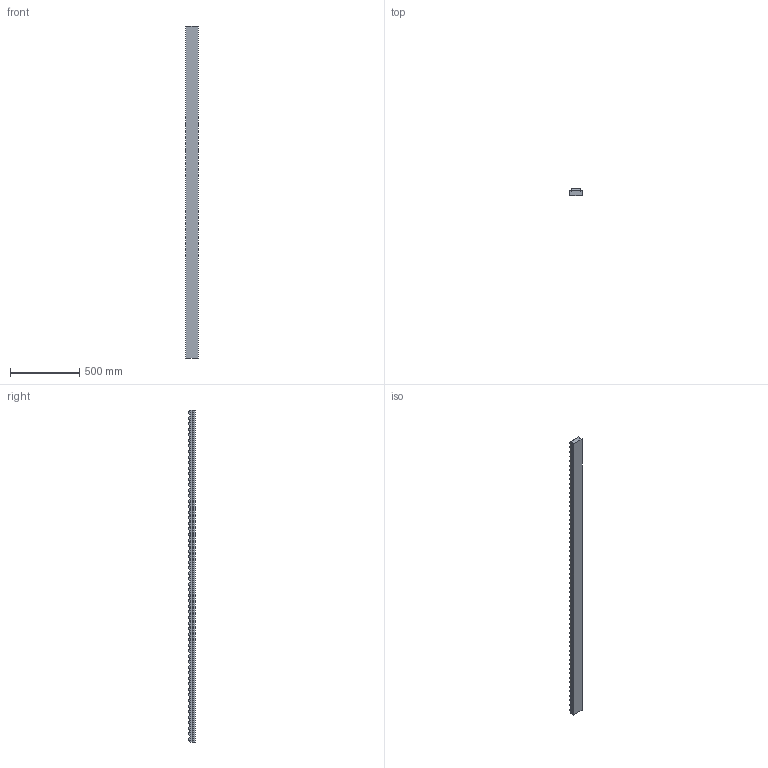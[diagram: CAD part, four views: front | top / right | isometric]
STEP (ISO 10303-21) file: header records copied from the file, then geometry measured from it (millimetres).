
FILE_DESCRIPTION (( 'STEP AP214' ), '1' );
FILE_NAME ('JB-59024.step', '2023-12-26T01:22:04', ( 'catia' ), ( 'HP Inc.' ), 'SwSTEP 2.0', 'SolidWorks 2021', '' );
FILE_SCHEMA (( 'AUTOMOTIVE_DESIGN' ));
Length unit declared in the file: millimetre
Products named in the file (1): JB-59024
Bounding box: 88 x 47.94 x 2400 mm (x, y, z)
Volume: 8643570 mm3; surface area: 733055.8 mm2
Topology: 1 solids, 1 shells, 192 faces, 390 edges, 260 vertices
Faces by surface type: plane 132, cylinder 60
Entity records: 5068 total; most frequent: DIRECTION 896, CARTESIAN_POINT 843, ORIENTED_EDGE 780, EDGE_CURVE 390, AXIS2_PLACEMENT_3D 313, LINE 270, VECTOR 270, VERTEX_POINT 260
